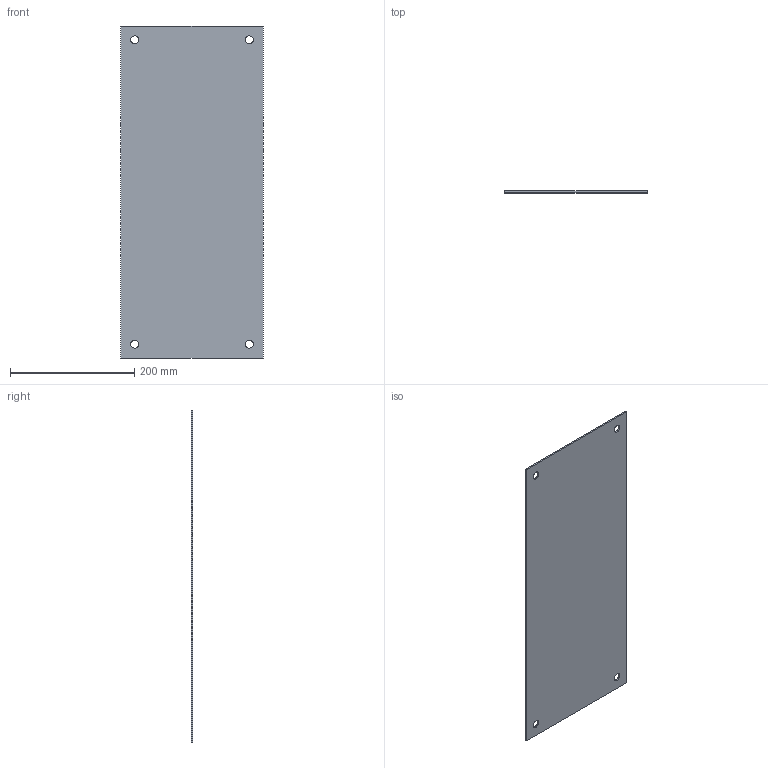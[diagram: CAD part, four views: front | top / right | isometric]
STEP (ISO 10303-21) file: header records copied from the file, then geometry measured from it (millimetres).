
FILE_DESCRIPTION(/* description */ ('Unknown'),/* implementation_level */ '2;1');
FILE_NAME(/* name */ '18G0921',/* time_stamp */ '2020-02-07T10:45:40-05:00',/* author */ ('Unknown'),/* organization */ ('Unknown'),/* preprocessor_version */ 'ST-DEVELOPER v16.7',/* originating_system */ 'DEX',/* authorisation */ $);
FILE_SCHEMA (('AUTOMOTIVE_DESIGN {1 0 10303 214 3 1 1}'));
Length unit declared in the file: millimetre
Products named in the file (2): 18G0921; COM70468-2
Assembly tree (1 placements, depth 2):
  18G0921
    COM70468-2
Bounding box: 228.6 x 2.41 x 533.4 mm (x, y, z)
Volume: 293007 mm3; surface area: 246919.6 mm2
Topology: 1 solids, 1 shells, 10 faces, 28 edges, 20 vertices
Faces by surface type: plane 6, cylinder 4
Full cylindrical faces by diameter (mm): 12.7 x4
Entity records: 332 total; most frequent: DIRECTION 52, CARTESIAN_POINT 48, ORIENTED_EDGE 40, EDGE_LOOP 22, FACE_BOUND 22, EDGE_CURVE 20, AXIS2_PLACEMENT_3D 20, VERTEX_POINT 16
